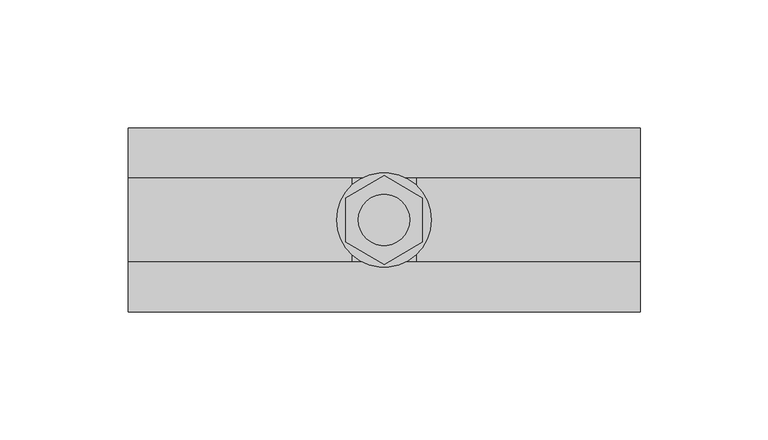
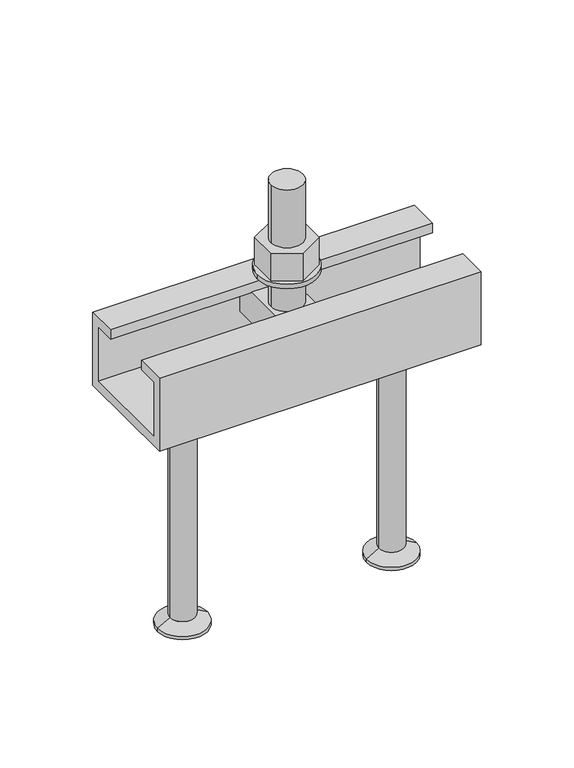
"""IFC4 building model written with IfcOpenShell, lengths in millimetres: fastener geometry, JTA-K JORDAHL® AnchorChannels : JTA-K L=200 mm."""

import ifcopenshell
import ifcopenshell.guid

model = None  # the IFC model being written
_history = None  # IfcOwnerHistory: only IFC2X3 demands one
_inside = {}  # id of a spatial element -> (the spatial element, [elements in it])
_under = {}  # id of a project, library or spatial element -> (it, [spatial elements below it])
_declared = {}  # id of a project -> (the project, [libraries it declares])
_typed = {}  # id of a type object -> (the type object, [elements of that type])
_made_of = {}  # id of a material, layer set ... -> (it, [elements and type objects made of it])


def new_model(schema):
    """Start an empty IFC model of exactly this schema.

    Asked for "IFC4X3", IfcOpenShell would pick the latest addendum, in which some entities
    have other attributes; the version numbers below select the first issue.
    IFC2X3 requires an IfcOwnerHistory on every rooted entity: one is made here for all.
    """
    global model, _history
    if schema == "IFC4X3":
        model = ifcopenshell.file(schema_version=(4, 3, 0, 0))
    else:
        model = ifcopenshell.file(schema=schema)
    _inside.clear()
    _under.clear()
    _declared.clear()
    _typed.clear()
    _made_of.clear()
    _history = None
    if model.schema == "IFC2X3":
        org = make("IfcOrganization", Name="unknown")
        user = make(
            "IfcPersonAndOrganization",
            ThePerson=make("IfcPerson", FamilyName="unknown"),
            TheOrganization=org,
        )
        app = make(
            "IfcApplication",
            ApplicationDeveloper=org,
            Version="unknown",
            ApplicationFullName="unknown",
            ApplicationIdentifier="unknown",
        )
        _history = make(
            "IfcOwnerHistory",
            OwningUser=user,
            OwningApplication=app,
            ChangeAction="ADDED",
            CreationDate=0,
        )
    return model


def make(cls, **values):
    """One entity of the class cls with the attributes given. An attribute that is None is left unset."""
    return model.create_entity(
        cls, **{name: value for name, value in values.items() if value is not None}
    )


def rooted(cls, **values):
    """An entity with a GlobalId (a new one), such as an element, a storey or a relation."""
    return make(cls, GlobalId=ifcopenshell.guid.new(), OwnerHistory=_history, **values)


def si_unit(unit_type, name, prefix=None):
    """IfcSIUnit, for example si_unit("LENGTHUNIT", "METRE", prefix="MILLI")."""
    return make("IfcSIUnit", UnitType=unit_type, Prefix=prefix, Name=name)


def assignment(units):
    """IfcUnitAssignment: the units of a project."""
    return None if units is None else make("IfcUnitAssignment", Units=units)


def point(xyz):
    """IfcCartesianPoint."""
    return None if xyz is None else make("IfcCartesianPoint", Coordinates=xyz)


def direction(xyz):
    """IfcDirection."""
    return None if xyz is None else make("IfcDirection", DirectionRatios=xyz)


def frame(location, z_axis=None, x_axis=None):
    """IfcAxis2Placement3D, a coordinate frame: its origin and axes. An axis left out is left unset."""
    return make(
        "IfcAxis2Placement3D",
        Location=point(location),
        Axis=direction(z_axis),
        RefDirection=direction(x_axis),
    )


def frame_2d(location, x_axis=None):
    """IfcAxis2Placement2D, a coordinate frame in the plane: its origin and x axis."""
    return make(
        "IfcAxis2Placement2D", Location=point(location), RefDirection=direction(x_axis)
    )


def origin():
    """The frame at (0, 0, 0) with its axes left unset."""
    return frame((0.0, 0.0, 0.0))


def place(relative_to, where):
    """IfcLocalPlacement: puts the frame where relative to a parent placement (None: the world)."""
    return make(
        "IfcLocalPlacement", PlacementRelTo=relative_to, RelativePlacement=where
    )


def context(
    kind, dimensions, precision=None, world=None, true_north=None, identifier=None
):
    """IfcGeometricRepresentationContext, for example the 3D "Model" context."""
    return make(
        "IfcGeometricRepresentationContext",
        ContextIdentifier=identifier,
        ContextType=kind,
        CoordinateSpaceDimension=dimensions,
        Precision=precision,
        WorldCoordinateSystem=world,
        TrueNorth=true_north,
    )


def project(units=None, contexts=None):
    """IfcProject with its units and contexts."""
    return rooted(
        "IfcProject",
        Name="project",
        RepresentationContexts=contexts,
        UnitsInContext=assignment(units),
    )


def spatial(cls, under=None, at=None, **own):
    """A site, building, storey or space (cls), placed at a placement, below another one or the project."""
    s = rooted(cls, ObjectPlacement=at, **own)
    if under is not None:
        _under.setdefault(under.id(), (under, []))[1].append(s)
    return s


def polyline(points):
    """IfcPolyline through the points."""
    return make("IfcPolyline", Points=[point(p) for p in points])


def circle_curve(where, radius):
    """IfcCircle in the frame where."""
    return make("IfcCircle", Position=where, Radius=radius)


def trimmed(basis, trim1, trim2, sense, master):
    """IfcTrimmedCurve: the piece of a basis curve between two trims."""
    return make(
        "IfcTrimmedCurve",
        BasisCurve=basis,
        Trim1=trim1,
        Trim2=trim2,
        SenseAgreement=sense,
        MasterRepresentation=master,
    )


def segment(curve, same_sense, transition):
    """IfcCompositeCurveSegment."""
    return make(
        "IfcCompositeCurveSegment",
        Transition=transition,
        SameSense=same_sense,
        ParentCurve=curve,
    )


def composite_curve(segments, self_intersect=None):
    """IfcCompositeCurve: segments joined end to end."""
    return make("IfcCompositeCurve", Segments=segments, SelfIntersect=self_intersect)


def outline(outer, holes=None, kind="AREA"):
    """IfcArbitraryClosedProfileDef: a profile drawn as a closed curve; with holes, ...WithVoids."""
    if holes is None:
        return make("IfcArbitraryClosedProfileDef", ProfileType=kind, OuterCurve=outer)
    return make(
        "IfcArbitraryProfileDefWithVoids",
        ProfileType=kind,
        OuterCurve=outer,
        InnerCurves=holes,
    )


def extrude(swept, where, along, depth):
    """IfcExtrudedAreaSolid: the profile swept, set in the frame where, extruded along a direction by depth."""
    return make(
        "IfcExtrudedAreaSolid",
        SweptArea=swept,
        Position=where,
        ExtrudedDirection=direction(along),
        Depth=depth,
    )


def shape(context_of_items, identifier, shape_type, items):
    """IfcShapeRepresentation: the items that make up one representation, for example the "Body"."""
    return make(
        "IfcShapeRepresentation",
        ContextOfItems=context_of_items,
        RepresentationIdentifier=identifier,
        RepresentationType=shape_type,
        Items=items,
    )


def source(mapping_origin, context_of_items, identifier, shape_type, items):
    """IfcRepresentationMap: a shape defined once, which mapped items show again and again."""
    return make(
        "IfcRepresentationMap",
        MappingOrigin=mapping_origin,
        MappedRepresentation=shape(context_of_items, identifier, shape_type, items),
    )


def transform(
    local_origin,
    x_axis=None,
    y_axis=None,
    z_axis=None,
    scale=None,
    scale2=None,
    scale3=None,
    uniform=True,
):
    """IfcCartesianTransformationOperator3D, or its non-uniform kind. x_axis, y_axis, z_axis: its Axis1, 2, 3."""
    if uniform:
        return make(
            "IfcCartesianTransformationOperator3D",
            Axis1=direction(x_axis),
            Axis2=direction(y_axis),
            LocalOrigin=point(local_origin),
            Scale=scale,
            Axis3=direction(z_axis),
        )
    return make(
        "IfcCartesianTransformationOperator3DnonUniform",
        Axis1=direction(x_axis),
        Axis2=direction(y_axis),
        LocalOrigin=point(local_origin),
        Scale=scale,
        Axis3=direction(z_axis),
        Scale2=scale2,
        Scale3=scale3,
    )


def mapped(mapping_source, mapping_target):
    """IfcMappedItem: shows the shape of a source again, moved by a transform."""
    return make(
        "IfcMappedItem", MappingSource=mapping_source, MappingTarget=mapping_target
    )


def made_of(thing, what):
    """Note that an element or type object is made of a material, layer set ...; save() writes the relation."""
    if what is not None:
        _made_of.setdefault(what.id(), (what, []))[1].append(thing)
    return thing


def element(
    cls,
    number,
    at=None,
    inside=None,
    cuts=None,
    type_object=None,
    material=None,
    context=None,
    identifier="Body",
    shape_type=None,
    held_by="IfcProductDefinitionShape",
    body=None,
    shapes=None,
    **own,
):
    """One element of the class cls, such as IfcWall. Its Tag is "e" and its number.

    at: its placement. inside: the storey or other place that contains it. cuts: it is an
    opening in that element (IfcRelVoidsElement). A single representation is given by context,
    identifier, shape_type and body (its items); several are given by shapes. held_by: the class
    of the entity that holds the representations. save() writes the other relations.
    """
    e = rooted(cls, Tag="e%d" % number, ObjectPlacement=at, **own)
    if body is not None:
        shapes = [shape(context, identifier, shape_type, body)]
    if shapes is not None:
        e.Representation = make(held_by, Representations=shapes)
    if inside is not None:
        _inside.setdefault(inside.id(), (inside, []))[1].append(e)
    if cuts is not None:
        rooted(
            "IfcRelVoidsElement", RelatingBuildingElement=cuts, RelatedOpeningElement=e
        )
    if type_object is not None:
        _typed.setdefault(type_object.id(), (type_object, []))[1].append(e)
    return made_of(e, material)


def aggregate(whole, parts):
    """IfcRelAggregates: a whole, such as a stair, and the parts it consists of."""
    return rooted("IfcRelAggregates", RelatingObject=whole, RelatedObjects=parts)


def save(model, path):
    """Write the relations noted so far, then the file.

    IfcRelAggregates (storeys below a building ...), IfcRelContainedInSpatialStructure (elements
    in a storey), IfcRelDefinesByType, IfcRelAssociatesMaterial and IfcRelDeclares: one each for
    every whole, place, type object, material and project.
    """
    for whole, parts in _under.values():
        aggregate(whole, parts)
    for where, things in _inside.values():
        rooted(
            "IfcRelContainedInSpatialStructure",
            RelatedElements=things,
            RelatingStructure=where,
        )
    for kind, things in _typed.values():
        rooted("IfcRelDefinesByType", RelatedObjects=things, RelatingType=kind)
    for what, things in _made_of.values():
        rooted("IfcRelAssociatesMaterial", RelatedObjects=things, RelatingMaterial=what)
    for by, libraries in _declared.values():
        rooted("IfcRelDeclares", RelatingContext=by, RelatedDefinitions=libraries)
    model.write(path)


def plane_surface(at):
    """IfcPlane: the flat surface through the origin of the frame at, square to its z axis."""
    return make("IfcPlane", Position=at)


def cylinder_surface(at, radius):
    """IfcCylindricalSurface: all points at the distance radius from the z axis of the frame at."""
    return make("IfcCylindricalSurface", Position=at, Radius=radius)


def revolved_surface(curve, axis_point, axis_direction):
    """IfcSurfaceOfRevolution: the curve turned about the line through axis_point along axis_direction."""
    return make(
        "IfcSurfaceOfRevolution",
        SweptCurve=make("IfcArbitraryOpenProfileDef", ProfileType="CURVE", Curve=curve),
        AxisPosition=make("IfcAxis1Placement", Location=point(axis_point), Axis=direction(axis_direction)),
    )


def advanced_brep(points, edges, surfaces, faces):
    """IfcAdvancedBrep: a solid bounded by faces that lie on surfaces and meet in shared edges.

    An edge is (start, end): straight between two places in points (the first is 0);
    or (start, end, curve); or (start, end, curve, False) where it runs against its curve.
    A face is (place in surfaces, loops), or (place, loops, False) where it looks against
    its surface's normal. A loop lists edges by number (the first is 1), with a minus sign
    where the edge is run from its end to its start. The first loop is the outer one.
    """
    corners = [point(p) for p in points]
    vertices = [make("IfcVertexPoint", VertexGeometry=c) for c in corners]
    made = []
    for start, end, *more in edges:
        made.append(
            make(
                "IfcEdgeCurve",
                EdgeStart=vertices[start],
                EdgeEnd=vertices[end],
                EdgeGeometry=more[0] if more else make("IfcPolyline", Points=[corners[start], corners[end]]),
                SameSense=more[1] if len(more) > 1 else True,
            )
        )
    hull = []
    for where, loops, *sense in faces:
        bounds = []
        for j, loop in enumerate(loops):
            ring = [make("IfcOrientedEdge", EdgeElement=made[abs(k) - 1], Orientation=k > 0) for k in loop]
            bounds.append(
                make(
                    "IfcFaceOuterBound" if j == 0 else "IfcFaceBound",
                    Bound=make("IfcEdgeLoop", EdgeList=ring),
                    Orientation=True,
                )
            )
        hull.append(make("IfcAdvancedFace", Bounds=bounds, FaceSurface=surfaces[where], SameSense=sense[0] if sense else True))
    return make("IfcAdvancedBrep", Outer=make("IfcClosedShell", CfsFaces=hull))


def fastener_ef55ff8e(model_context):
    return source(origin(), model_context, "Body", "SolidModel", [
        extrude(outline(polyline([(100.0, -17.3205081), (85.0, -8.660254), (85.0, 8.660254), (100.0, 17.3205081), (115.0, 8.660254), (115.0, -8.660254), (100.0, -17.3205081)]), holes=[composite_curve([segment(trimmed(circle_curve(frame_2d((100.0, 0.0)), 10.0), [point((90.0, 0.0))], [point((110.0, 0.0))], True, "CARTESIAN"), True, "CONTINUOUS"), segment(trimmed(circle_curve(frame_2d((100.0, 0.0)), 10.0), [point((110.0, 0.0))], [point((90.0, 0.0))], True, "CARTESIAN"), True, "CONTINUOUS")], self_intersect=False)]), frame((0.0, 0.0, 18.0), z_axis=(0.0, 0.0, 1.0), x_axis=(1.0, 0.0, 0.0)), (0.0, 0.0, 1.0), 18.0),
        extrude(outline(composite_curve([segment(trimmed(circle_curve(frame_2d((100.0, 0.0)), 18.5), [point((81.5, 0.0))], [point((118.5, 0.0))], False, "CARTESIAN"), True, "CONTINUOUS"), segment(trimmed(circle_curve(frame_2d((100.0, 0.0)), 18.5), [point((118.5, 0.0))], [point((81.5, 0.0))], False, "CARTESIAN"), True, "CONTINUOUS")], self_intersect=False), holes=[composite_curve([segment(trimmed(circle_curve(frame_2d((100.0, 0.0)), 10.5), [point((89.5, 0.0))], [point((110.5, 0.0))], True, "CARTESIAN"), True, "CONTINUOUS"), segment(trimmed(circle_curve(frame_2d((100.0, 0.0)), 10.5), [point((110.5, 0.0))], [point((89.5, 0.0))], True, "CARTESIAN"), True, "CONTINUOUS")], self_intersect=False)]), frame((0.0, 0.0, 15.0), z_axis=(0.0, 0.0, 1.0), x_axis=(1.0, 0.0, 0.0)), (0.0, 0.0, 1.0), 3.0),
        advanced_brep(
        [(112.5, -29.0, -6.0), (112.5, -29.0, -26.0), (112.5, 29.0, -26.0), (112.5, 29.0, -6.0), (87.5, -29.0, -6.0), (87.5, 29.0, -6.0), (87.5, 29.0, -26.0), (87.5, -29.0, -26.0), (110.0, 0.0, -6.0), (90.0, 0.0, -6.0), (90.0, 0.0, 74.0), (110.0, 0.0, 74.0)],
        [
            (0, 1),
            (1, 2),
            (2, 3),
            (3, 0),
            (4, 5),
            (5, 6),
            (6, 7),
            (7, 4),
            (3, 5),
            (4, 0),
            (8, 9, circle_curve(frame((100.0, 0.0, -6.0), z_axis=(0.0, 0.0, -1.0), x_axis=(1.0, 0.0, 0.0)), 10.0)),
            (9, 8, circle_curve(frame((100.0, 0.0, -6.0), z_axis=(0.0, 0.0, -1.0), x_axis=(1.0, 0.0, 0.0)), 10.0)),
            (2, 6),
            (1, 7),
            (10, 11, circle_curve(frame((100.0, 0.0, 74.0), z_axis=(0.0, 0.0, 1.0), x_axis=(1.0, 0.0, 0.0)), 10.0)),
            (11, 10, circle_curve(frame((100.0, 0.0, 74.0), z_axis=(0.0, 0.0, 1.0), x_axis=(1.0, 0.0, 0.0)), 10.0)),
            (11, 8),
            (9, 10),
        ],
        [
            plane_surface(frame((112.5, 29.0, -6.0), z_axis=(1.0, 0.0, 0.0), x_axis=(0.0, 1.0, 0.0))),
            plane_surface(frame((87.5, 29.0, -6.0), z_axis=(-1.0, 0.0, 0.0), x_axis=(0.0, -1.0, 0.0))),
            plane_surface(frame((112.5, -29.0, -6.0), z_axis=(0.0, 0.0, 1.0), x_axis=(-1.0, 0.0, 0.0))),
            plane_surface(frame((112.5, 29.0, -6.0), z_axis=(0.0, 1.0, 0.0), x_axis=(-1.0, 0.0, 0.0))),
            plane_surface(frame((112.5, 29.0, -26.0), z_axis=(0.0, 0.0, -1.0), x_axis=(-1.0, 0.0, 0.0))),
            plane_surface(frame((112.5, -29.0, -26.0), z_axis=(0.0, -1.0, 0.0), x_axis=(-1.0, 0.0, 0.0))),
            plane_surface(frame((110.0, 0.0, 74.0), z_axis=(0.0, 0.0, 1.0), x_axis=(0.0, -1.0, 0.0))),
            cylinder_surface(frame((100.0, 0.0, -6.0), z_axis=(0.0, 0.0, 1.0), x_axis=(1.0, 0.0, 0.0)), 10.0),
        ],
        [
            (0, [[1, 2, 3, 4]]),
            (1, [[5, 6, 7, 8]]),
            (2, [[9, -5, 10, -4], [11, 12]]),
            (3, [[13, -6, -9, -3]]),
            (4, [[14, -7, -13, -2]]),
            (5, [[-10, -8, -14, -1]]),
            (6, [[15, 16]]),
            (7, [[17, -12, 18, -16]]),
            (7, [[-18, -11, -17, -15]]),
        ],
    ),
        advanced_brep(
        [(165.0, 0.0, -48.0), (142.0, 0.0, -48.0), (188.0, 0.0, -48.0), (149.5, 0.0, -195.0), (165.0, 0.0, -195.0), (180.5, 0.0, -195.0), (149.5, 0.0, -193.0), (180.5, 0.0, -193.0), (157.2, 0.0, -188.5544029), (172.8, 0.0, -188.5544029), (157.2, 0.0, -52.0), (172.8, 0.0, -52.0)],
        [
            (0, 1),
            (1, 2, circle_curve(frame((165.0, 0.0, -48.0), z_axis=(0.0, 0.0, 1.0), x_axis=(1.0, 0.0, 0.0)), 23.0)),
            (2, 0),
            (2, 1, circle_curve(frame((165.0, 0.0, -48.0), z_axis=(0.0, 0.0, 1.0), x_axis=(1.0, 0.0, 0.0)), 23.0)),
            (3, 4),
            (4, 5),
            (5, 3, circle_curve(frame((165.0, 0.0, -195.0), z_axis=(0.0, 0.0, -1.0), x_axis=(1.0, 0.0, 0.0)), 15.5)),
            (3, 5, circle_curve(frame((165.0, 0.0, -195.0), z_axis=(0.0, 0.0, -1.0), x_axis=(1.0, 0.0, 0.0)), 15.5)),
            (6, 3),
            (5, 7),
            (7, 6, circle_curve(frame((165.0, 0.0, -193.0), z_axis=(0.0, 0.0, -1.0), x_axis=(1.0, 0.0, 0.0)), 15.5)),
            (6, 7, circle_curve(frame((165.0, 0.0, -193.0), z_axis=(0.0, 0.0, -1.0), x_axis=(1.0, 0.0, 0.0)), 15.5)),
            (8, 6),
            (7, 9),
            (9, 8, circle_curve(frame((165.0, 0.0, -188.5544029), z_axis=(0.0, 0.0, -1.0), x_axis=(1.0, 0.0, 0.0)), 7.8)),
            (8, 9, circle_curve(frame((165.0, 0.0, -188.5544029), z_axis=(0.0, 0.0, -1.0), x_axis=(1.0, 0.0, 0.0)), 7.8)),
            (10, 8),
            (9, 11),
            (11, 10, circle_curve(frame((165.0, 0.0, -52.0), z_axis=(0.0, 0.0, -1.0), x_axis=(1.0, 0.0, 0.0)), 7.8)),
            (10, 11, circle_curve(frame((165.0, 0.0, -52.0), z_axis=(0.0, 0.0, -1.0), x_axis=(1.0, 0.0, 0.0)), 7.8)),
            (1, 10),
            (11, 2),
        ],
        [
            plane_surface(frame((165.0, 0.0, -48.0), z_axis=(0.0, 0.0, 1.0), x_axis=(1.0, 0.0, 0.0))),
            plane_surface(frame((165.0, 0.0, -195.0), z_axis=(0.0, 0.0, -1.0), x_axis=(1.0, 0.0, 0.0))),
            cylinder_surface(frame((165.0, 0.0, 2361.3150031), z_axis=(0.0, 0.0, 1.0), x_axis=(1.0, 0.0, 0.0)), 15.5),
            revolved_surface(polyline([(180.5, 0.0, -193.0), (172.8, 0.0, -188.5544029)]), (165.0, 0.0, 2361.3150031), (0.0, 0.0, 1.0)),
            cylinder_surface(frame((165.0, 0.0, 2361.3150031), z_axis=(0.0, 0.0, 1.0), x_axis=(1.0, 0.0, 0.0)), 7.8),
            revolved_surface(polyline([(172.8, 0.0, -52.0), (188.0, 0.0, -48.0)]), (165.0, 0.0, 2361.3150031), (0.0, 0.0, 1.0)),
        ],
        [
            (0, [[1, 2, 3]]),
            (0, [[-3, 4, -1]]),
            (1, [[5, 6, 7]]),
            (1, [[-6, -5, 8]]),
            (2, [[9, -7, 10, 11]]),
            (2, [[-10, -8, -9, 12]]),
            (3, [[13, -11, 14, 15]]),
            (3, [[-14, -12, -13, 16]]),
            (4, [[17, -15, 18, 19]]),
            (4, [[-18, -16, -17, 20]]),
            (5, [[21, -19, 22, -2]]),
            (5, [[-22, -20, -21, -4]]),
        ],
    ),
        advanced_brep(
        [(35.0, 0.0, -48.0), (12.0, 0.0, -48.0), (58.0, 0.0, -48.0), (19.5, 0.0, -195.0), (35.0, 0.0, -195.0), (50.5, 0.0, -195.0), (19.5, 0.0, -193.0), (50.5, 0.0, -193.0), (27.2, 0.0, -188.5544029), (42.8, 0.0, -188.5544029), (27.2, 0.0, -52.0), (42.8, 0.0, -52.0)],
        [
            (0, 1),
            (1, 2, circle_curve(frame((35.0, 0.0, -48.0), z_axis=(0.0, 0.0, 1.0), x_axis=(1.0, 0.0, 0.0)), 23.0)),
            (2, 0),
            (2, 1, circle_curve(frame((35.0, 0.0, -48.0), z_axis=(0.0, 0.0, 1.0), x_axis=(1.0, 0.0, 0.0)), 23.0)),
            (3, 4),
            (4, 5),
            (5, 3, circle_curve(frame((35.0, 0.0, -195.0), z_axis=(0.0, 0.0, -1.0), x_axis=(1.0, 0.0, 0.0)), 15.5)),
            (3, 5, circle_curve(frame((35.0, 0.0, -195.0), z_axis=(0.0, 0.0, -1.0), x_axis=(1.0, 0.0, 0.0)), 15.5)),
            (6, 3),
            (5, 7),
            (7, 6, circle_curve(frame((35.0, 0.0, -193.0), z_axis=(0.0, 0.0, -1.0), x_axis=(1.0, 0.0, 0.0)), 15.5)),
            (6, 7, circle_curve(frame((35.0, 0.0, -193.0), z_axis=(0.0, 0.0, -1.0), x_axis=(1.0, 0.0, 0.0)), 15.5)),
            (8, 6),
            (7, 9),
            (9, 8, circle_curve(frame((35.0, 0.0, -188.5544029), z_axis=(0.0, 0.0, -1.0), x_axis=(1.0, 0.0, 0.0)), 7.8)),
            (8, 9, circle_curve(frame((35.0, 0.0, -188.5544029), z_axis=(0.0, 0.0, -1.0), x_axis=(1.0, 0.0, 0.0)), 7.8)),
            (10, 8),
            (9, 11),
            (11, 10, circle_curve(frame((35.0, 0.0, -52.0), z_axis=(0.0, 0.0, -1.0), x_axis=(1.0, 0.0, 0.0)), 7.8)),
            (10, 11, circle_curve(frame((35.0, 0.0, -52.0), z_axis=(0.0, 0.0, -1.0), x_axis=(1.0, 0.0, 0.0)), 7.8)),
            (1, 10),
            (11, 2),
        ],
        [
            plane_surface(frame((35.0, 0.0, -48.0), z_axis=(0.0, 0.0, 1.0), x_axis=(1.0, 0.0, 0.0))),
            plane_surface(frame((35.0, 0.0, -195.0), z_axis=(0.0, 0.0, -1.0), x_axis=(1.0, 0.0, 0.0))),
            cylinder_surface(frame((35.0, 0.0, 2361.3150031), z_axis=(0.0, 0.0, 1.0), x_axis=(1.0, 0.0, 0.0)), 15.5),
            revolved_surface(polyline([(50.5, 0.0, -193.0), (42.8, 0.0, -188.5544029)]), (35.0, 0.0, 2361.3150031), (0.0, 0.0, 1.0)),
            cylinder_surface(frame((35.0, 0.0, 2361.3150031), z_axis=(0.0, 0.0, 1.0), x_axis=(1.0, 0.0, 0.0)), 7.8),
            revolved_surface(polyline([(42.8, 0.0, -52.0), (58.0, 0.0, -48.0)]), (35.0, 0.0, 2361.3150031), (0.0, 0.0, 1.0)),
        ],
        [
            (0, [[1, 2, 3]]),
            (0, [[-3, 4, -1]]),
            (1, [[5, 6, 7]]),
            (1, [[-6, -5, 8]]),
            (2, [[9, -7, 10, 11]]),
            (2, [[-10, -8, -9, 12]]),
            (3, [[13, -11, 14, 15]]),
            (3, [[-14, -12, -13, 16]]),
            (4, [[17, -15, 18, 19]]),
            (4, [[-18, -16, -17, 20]]),
            (5, [[21, -19, 22, -2]]),
            (5, [[-22, -20, -21, -4]]),
        ],
    ),
        extrude(outline(polyline([(-36.0, 0.0), (-16.5, 0.0), (-16.5, -6.0), (-30.0, -6.0), (-30.0, -42.0), (30.0, -42.0), (30.0, -6.0), (16.5, -6.0), (16.5, 0.0), (36.0, 0.0), (36.0, -48.0), (-36.0, -48.0), (-36.0, 0.0)])), frame((0.0, 0.0, 0.0), z_axis=(1.0, 0.0, 0.0), x_axis=(0.0, 1.0, 0.0)), (0.0, 0.0, 1.0), 200.0),
    ])


if __name__ == "__main__":
    model = new_model("IFC4")
    model_context = context("Model", 3, world=origin())
    ifc_project = project(units=[si_unit("LENGTHUNIT", "METRE", prefix="MILLI")], contexts=[model_context])
    site = spatial("IfcSite", under=ifc_project)
    building = spatial("IfcBuilding", under=site)
    placement = place(None, origin())
    fastener_shape = fastener_ef55ff8e(model_context)
    element("IfcFastener", 1, ObjectType="JTA-K JORDAHL® AnchorChannels : JTA-K L=200 mm", at=placement, inside=building, context=model_context, shape_type="MappedRepresentation", body=[
        mapped(fastener_shape, transform((0.0, 0.0, 0.0), x_axis=(1.0, 0.0, 0.0), y_axis=(0.0, 1.0, 0.0), z_axis=(0.0, 0.0, 1.0))),
    ])
    save(model, "model.ifc")
